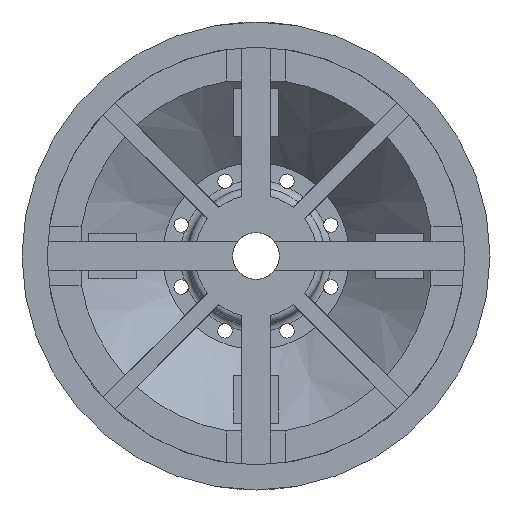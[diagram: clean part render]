
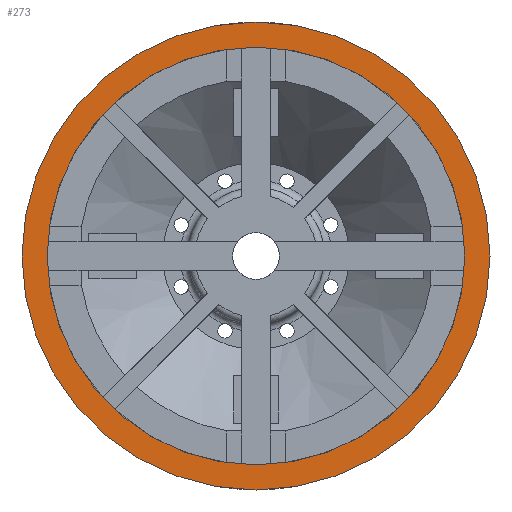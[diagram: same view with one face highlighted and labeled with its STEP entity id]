
A CAD part, front view. The second image highlights one B-rep face of the part: STEP entity #273.
In plain terms, the highlighted planar face has unit normal (0, -1, 0).
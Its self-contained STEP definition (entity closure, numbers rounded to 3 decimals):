
#273 = ADVANCED_FACE( '', ( #761, #762 ), #763, .F. );
#761 = FACE_BOUND( '', #1303, .T. );
#762 = FACE_OUTER_BOUND( '', #1304, .T. );
#763 = PLANE( '', #1305 );
#1303 = EDGE_LOOP( '', ( #2997 ) );
#1304 = EDGE_LOOP( '', ( #2998 ) );
#1305 = AXIS2_PLACEMENT_3D( '', #2999, #3000, #3001 );
#2997 = ORIENTED_EDGE( '', *, *, #4151, .F. );
#2998 = ORIENTED_EDGE( '', *, *, #3545, .T. );
#2999 = CARTESIAN_POINT( '', ( 32.5, 0., 0. ) );
#3000 = DIRECTION( '', ( 0., 1., 0. ) );
#3001 = DIRECTION( '', ( 0., 0., 1. ) );
#3545 = EDGE_CURVE( '', #4256, #4256, #4257, .T. );
#4151 = EDGE_CURVE( '', #5284, #5284, #5285, .T. );
#4256 = VERTEX_POINT( '', #5551 );
#4257 = CIRCLE( '', #5552, 32.5 );
#5284 = VERTEX_POINT( '', #8231 );
#5285 = CIRCLE( '', #8232, 29. );
#5551 = CARTESIAN_POINT( '', ( 0., 0., -32.5 ) );
#5552 = AXIS2_PLACEMENT_3D( '', #8453, #8454, #8455 );
#8231 = CARTESIAN_POINT( '', ( 0., 0., -29. ) );
#8232 = AXIS2_PLACEMENT_3D( '', #9112, #9113, #9114 );
#8453 = CARTESIAN_POINT( '', ( 0., 0., 0. ) );
#8454 = DIRECTION( '', ( 0., -1., 0. ) );
#8455 = DIRECTION( '', ( 0., 0., -1. ) );
#9112 = CARTESIAN_POINT( '', ( 0., 0., 0. ) );
#9113 = DIRECTION( '', ( 0., -1., 0. ) );
#9114 = DIRECTION( '', ( 0., 0., -1. ) );
